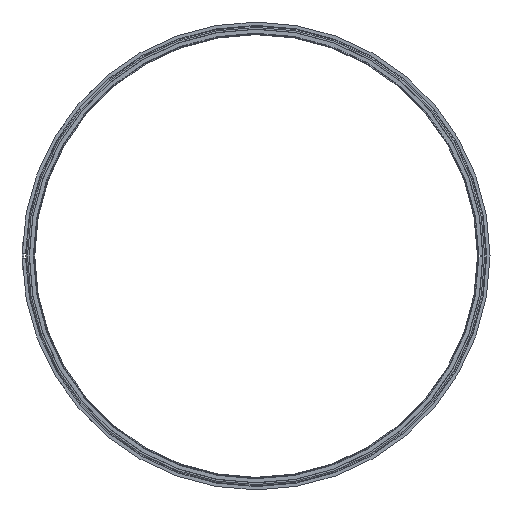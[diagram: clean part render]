
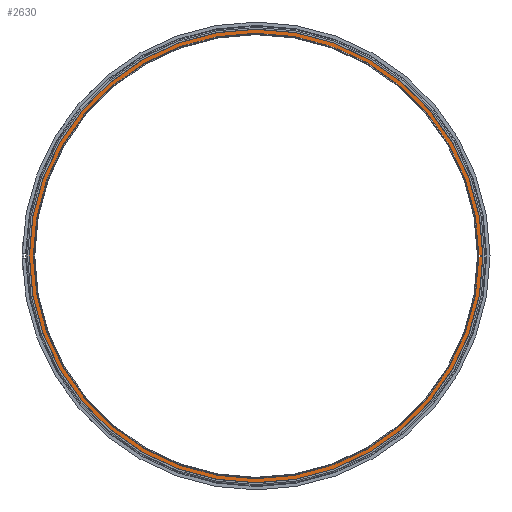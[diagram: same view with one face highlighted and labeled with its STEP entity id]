
A CAD part, left-side view. The second image highlights one B-rep face of the part: STEP entity #2630.
In plain terms, the highlighted planar face has unit normal (-1, 0, 0).
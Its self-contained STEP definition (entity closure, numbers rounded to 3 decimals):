
#623=CARTESIAN_POINT('',(-2.823,407.1,0.));
#624=VERTEX_POINT('',#623);
#633=CARTESIAN_POINT('',(-2.823,-407.099,1.));
#634=VERTEX_POINT('',#633);
#635=CARTESIAN_POINT('',(-2.823,0.,0.0));
#636=DIRECTION('',(1.0,0.0,0.0));
#637=DIRECTION('',(0.0,1.0,0.0));
#638=AXIS2_PLACEMENT_3D('',#635,#636,#637);
#639=CIRCLE('',#638,407.1);
#640=EDGE_CURVE('',#624,#634,#639,.T.);
#830=CARTESIAN_POINT('',(-2.823,400.0,0.));
#831=VERTEX_POINT('',#830);
#847=CARTESIAN_POINT('',(-2.823,-399.999,1.));
#848=VERTEX_POINT('',#847);
#855=CARTESIAN_POINT('',(-2.823,0.,0.0));
#856=DIRECTION('',(1.0,0.0,0.0));
#857=DIRECTION('',(0.0,1.0,0.0));
#858=AXIS2_PLACEMENT_3D('',#855,#856,#857);
#859=CIRCLE('',#858,400.0);
#860=EDGE_CURVE('',#831,#848,#859,.T.);
#2339=CARTESIAN_POINT('',(-2.823,-407.099,-1.));
#2340=VERTEX_POINT('',#2339);
#2341=CARTESIAN_POINT('',(-2.823,-399.999,-1.));
#2342=VERTEX_POINT('',#2341);
#2343=CARTESIAN_POINT('',(-2.823,-407.099,-1.));
#2344=DIRECTION('',(0.0,1.0,0.0));
#2345=VECTOR('',#2344,7.1);
#2346=LINE('',#2343,#2345);
#2347=EDGE_CURVE('',#2340,#2342,#2346,.T.);
#2408=CARTESIAN_POINT('',(-2.823,-399.999,1.));
#2409=DIRECTION('',(0.0,-1.0,0.0));
#2410=VECTOR('',#2409,7.1);
#2411=LINE('',#2408,#2410);
#2412=EDGE_CURVE('',#848,#634,#2411,.T.);
#2473=CARTESIAN_POINT('',(-2.823,0.,0.0));
#2474=DIRECTION('',(1.0,0.0,0.0));
#2475=DIRECTION('',(0.0,1.0,0.0));
#2476=AXIS2_PLACEMENT_3D('',#2473,#2474,#2475);
#2477=CIRCLE('',#2476,400.0);
#2478=EDGE_CURVE('',#2342,#831,#2477,.T.);
#2611=CARTESIAN_POINT('',(-2.823,403.55,0.0));
#2612=DIRECTION('',(-1.0,0.0,0.0));
#2613=DIRECTION('',(0.0,0.0,1.0));
#2614=AXIS2_PLACEMENT_3D('',#2611,#2612,#2613);
#2615=PLANE('',#2614);
#2616=ORIENTED_EDGE('',*,*,#2347,.T.);
#2617=ORIENTED_EDGE('',*,*,#2478,.T.);
#2618=ORIENTED_EDGE('',*,*,#860,.T.);
#2619=ORIENTED_EDGE('',*,*,#2412,.T.);
#2620=ORIENTED_EDGE('',*,*,#640,.F.);
#2621=CARTESIAN_POINT('',(-2.823,0.,0.0));
#2622=DIRECTION('',(1.0,0.0,0.0));
#2623=DIRECTION('',(0.0,1.0,0.0));
#2624=AXIS2_PLACEMENT_3D('',#2621,#2622,#2623);
#2625=CIRCLE('',#2624,407.1);
#2626=EDGE_CURVE('',#2340,#624,#2625,.T.);
#2627=ORIENTED_EDGE('',*,*,#2626,.F.);
#2628=EDGE_LOOP('',(#2616,#2617,#2618,#2619,#2620,#2627));
#2629=FACE_OUTER_BOUND('',#2628,.T.);
#2630=ADVANCED_FACE('',(#2629),#2615,.T.);
